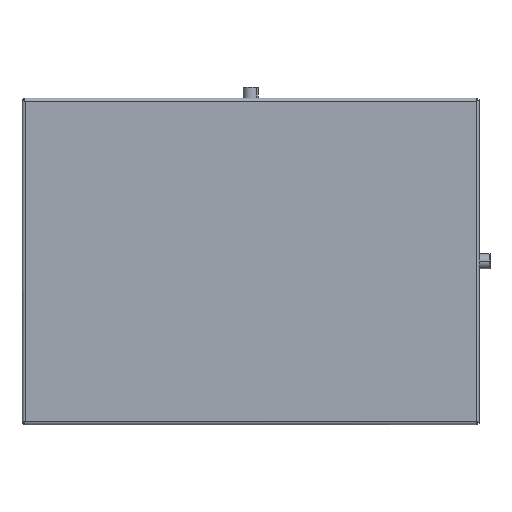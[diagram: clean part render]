
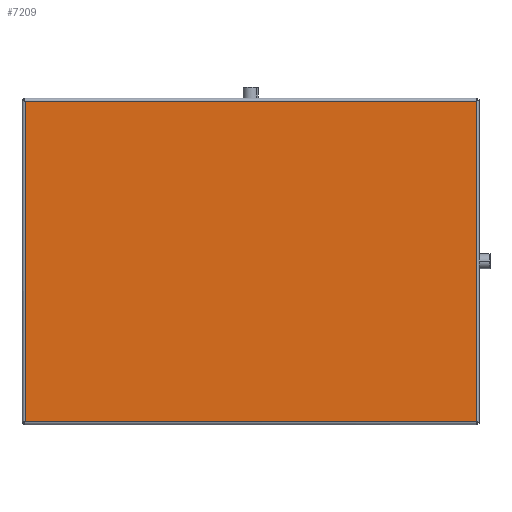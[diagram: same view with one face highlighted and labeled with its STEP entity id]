
A CAD part, front view. The second image highlights one B-rep face of the part: STEP entity #7209.
In plain terms, the highlighted planar face has unit normal (0, -1, 0).
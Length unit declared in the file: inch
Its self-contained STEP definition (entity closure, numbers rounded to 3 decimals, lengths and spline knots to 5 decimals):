
#180 = VERTEX_POINT ( 'NONE', #1208 ) ;
#700 = FACE_OUTER_BOUND ( 'NONE', #1448, .T. ) ;
#830 = CARTESIAN_POINT ( 'NONE',  ( -27.73555, 2.50474, 12.80334 ) ) ;
#1163 = LINE ( 'NONE', #5753, #6959 ) ;
#1208 = CARTESIAN_POINT ( 'NONE',  ( 13.71125, 2.50474, 12.80334 ) ) ;
#1448 = EDGE_LOOP ( 'NONE', ( #5797, #4648, #5042, #4832 ) ) ;
#1919 = AXIS2_PLACEMENT_3D ( 'NONE', #2624, #2597, #2592 ) ;
#2144 = LINE ( 'NONE', #4041, #6598 ) ;
#2592 = DIRECTION ( 'NONE',  ( 0., 0., -1. ) ) ;
#2597 = DIRECTION ( 'NONE',  ( 0., -1., 0. ) ) ;
#2624 = CARTESIAN_POINT ( 'NONE',  ( -28.01215, 2.50474, -16.92006 ) ) ;
#2723 = PLANE ( 'NONE',  #1919 ) ;
#2843 = VERTEX_POINT ( 'NONE', #7132 ) ;
#4031 = LINE ( 'NONE', #5779, #5994 ) ;
#4039 = DIRECTION ( 'NONE',  ( 1., 0., 0. ) ) ;
#4041 = CARTESIAN_POINT ( 'NONE',  ( -27.85719, 2.50474, -16.64346 ) ) ;
#4042 = CARTESIAN_POINT ( 'NONE',  ( 13.71125, 2.50474, -16.64346 ) ) ;
#4648 = ORIENTED_EDGE ( 'NONE', *, *, #5730, .T. ) ;
#4717 = VERTEX_POINT ( 'NONE', #4042 ) ;
#4832 = ORIENTED_EDGE ( 'NONE', *, *, #5844, .T. ) ;
#5042 = ORIENTED_EDGE ( 'NONE', *, *, #5729, .T. ) ;
#5703 = EDGE_CURVE ( 'NONE', #4717, #180, #6468, .T. ) ;
#5729 = EDGE_CURVE ( 'NONE', #6155, #2843, #4031, .T. ) ;
#5730 = EDGE_CURVE ( 'NONE', #180, #6155, #1163, .T. ) ;
#5735 = DIRECTION ( 'NONE',  ( -1., 0., 0. ) ) ;
#5753 = CARTESIAN_POINT ( 'NONE',  ( 13.8329, 2.50474, 12.80334 ) ) ;
#5765 = DIRECTION ( 'NONE',  ( 0., 0., -1. ) ) ;
#5779 = CARTESIAN_POINT ( 'NONE',  ( -27.73555, 2.50474, 12.92499 ) ) ;
#5797 = ORIENTED_EDGE ( 'NONE', *, *, #5703, .T. ) ;
#5844 = EDGE_CURVE ( 'NONE', #2843, #4717, #2144, .T. ) ;
#5994 = VECTOR ( 'NONE', #5765, 39.37008 ) ;
#6097 = DIRECTION ( 'NONE',  ( 0., 0., 1. ) ) ;
#6137 = CARTESIAN_POINT ( 'NONE',  ( 13.71125, 2.50474, -16.7651 ) ) ;
#6155 = VERTEX_POINT ( 'NONE', #830 ) ;
#6319 = VECTOR ( 'NONE', #6097, 39.37008 ) ;
#6468 = LINE ( 'NONE', #6137, #6319 ) ;
#6598 = VECTOR ( 'NONE', #4039, 39.37008 ) ;
#6959 = VECTOR ( 'NONE', #5735, 39.37008 ) ;
#7132 = CARTESIAN_POINT ( 'NONE',  ( -27.73555, 2.50474, -16.64346 ) ) ;
#7209 = ADVANCED_FACE ( 'NONE', ( #700 ), #2723, .T. ) ;
